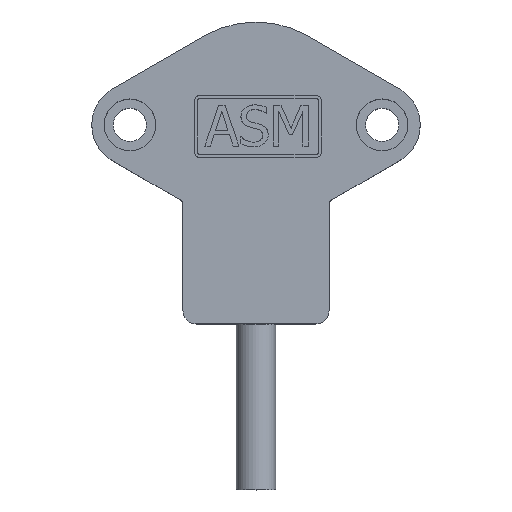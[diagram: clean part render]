
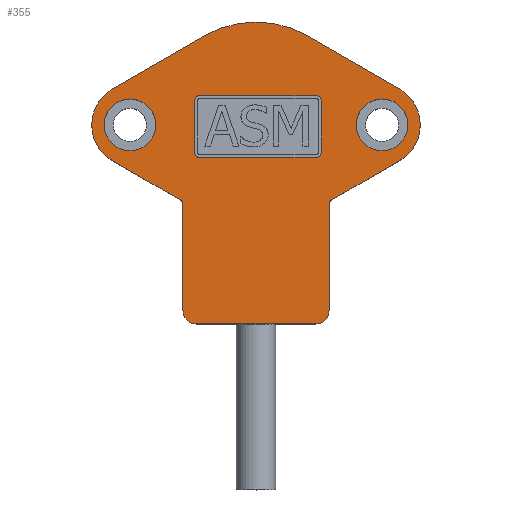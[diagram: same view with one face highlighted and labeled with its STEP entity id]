
A CAD part, top view. The second image highlights one B-rep face of the part: STEP entity #355.
In plain terms, the highlighted planar face has unit normal (0, 0, 1).
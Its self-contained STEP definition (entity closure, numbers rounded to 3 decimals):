
#97=CARTESIAN_POINT('',(21.624,5.413,10.0));
#98=VERTEX_POINT('',#97);
#105=CARTESIAN_POINT('',(21.625,-5.412,10.0));
#106=VERTEX_POINT('',#105);
#107=CARTESIAN_POINT('',(18.499,0.,10.0));
#108=DIRECTION('',(0.0,0.0,-1.));
#109=DIRECTION('',(0.5,-0.866,0.0));
#110=AXIS2_PLACEMENT_3D('',#107,#108,#109);
#111=CIRCLE('',#110,6.25);
#112=EDGE_CURVE('',#98,#106,#111,.T.);
#129=CARTESIAN_POINT('',(11.25,-11.403,10.0));
#130=VERTEX_POINT('',#129);
#131=CARTESIAN_POINT('',(21.625,-5.412,10.0));
#132=DIRECTION('',(-0.866,-0.5,0.0));
#133=VECTOR('',#132,11.98);
#134=LINE('',#131,#133);
#135=EDGE_CURVE('',#106,#130,#134,.T.);
#154=CARTESIAN_POINT('',(0.,-6.253,10.0));
#155=DIRECTION('',(0.0,0.0,1.0));
#156=DIRECTION('',(1.0,0.0,0.0));
#157=AXIS2_PLACEMENT_3D('',#154,#155,#156);
#158=PLANE('',#157);
#159=ORIENTED_EDGE('',*,*,#112,.F.);
#160=CARTESIAN_POINT('',(7.75,13.423,10.0));
#161=VERTEX_POINT('',#160);
#162=CARTESIAN_POINT('',(7.75,13.423,10.0));
#163=DIRECTION('',(0.866,-0.5,0.0));
#164=VECTOR('',#163,16.021);
#165=LINE('',#162,#164);
#166=EDGE_CURVE('',#161,#98,#165,.T.);
#167=ORIENTED_EDGE('',*,*,#166,.F.);
#168=CARTESIAN_POINT('',(-7.75,13.423,10.0));
#169=VERTEX_POINT('',#168);
#170=CARTESIAN_POINT('',(0.0,0.0,10.0));
#171=DIRECTION('',(0.0,0.0,-1.));
#172=DIRECTION('',(0.5,0.866,0.0));
#173=AXIS2_PLACEMENT_3D('',#170,#171,#172);
#174=CIRCLE('',#173,15.5);
#175=EDGE_CURVE('',#169,#161,#174,.T.);
#176=ORIENTED_EDGE('',*,*,#175,.F.);
#177=CARTESIAN_POINT('',(-21.625,5.413,10.0));
#178=VERTEX_POINT('',#177);
#179=CARTESIAN_POINT('',(-21.625,5.413,10.0));
#180=DIRECTION('',(0.866,0.5,0.0));
#181=VECTOR('',#180,16.021);
#182=LINE('',#179,#181);
#183=EDGE_CURVE('',#178,#169,#182,.T.);
#184=ORIENTED_EDGE('',*,*,#183,.F.);
#185=CARTESIAN_POINT('',(-21.625,-5.413,10.0));
#186=VERTEX_POINT('',#185);
#187=CARTESIAN_POINT('',(-18.5,0.,10.0));
#188=DIRECTION('',(0.0,0.0,-1.0));
#189=DIRECTION('',(-1.0,0.0,0.0));
#190=AXIS2_PLACEMENT_3D('',#187,#188,#189);
#191=CIRCLE('',#190,6.25);
#192=EDGE_CURVE('',#186,#178,#191,.T.);
#193=ORIENTED_EDGE('',*,*,#192,.F.);
#194=CARTESIAN_POINT('',(-11.25,-11.403,10.0));
#195=VERTEX_POINT('',#194);
#196=CARTESIAN_POINT('',(-11.25,-11.403,10.0));
#197=DIRECTION('',(-0.866,0.5,0.0));
#198=VECTOR('',#197,11.98);
#199=LINE('',#196,#198);
#200=EDGE_CURVE('',#195,#186,#199,.T.);
#201=ORIENTED_EDGE('',*,*,#200,.F.);
#202=CARTESIAN_POINT('',(-11.,-11.836,10.0));
#203=VERTEX_POINT('',#202);
#204=CARTESIAN_POINT('',(-11.5,-11.836,10.0));
#205=DIRECTION('',(0.0,0.0,1.0));
#206=DIRECTION('',(-1.0,0.0,0.0));
#207=AXIS2_PLACEMENT_3D('',#204,#205,#206);
#208=CIRCLE('',#207,0.5);
#209=EDGE_CURVE('',#203,#195,#208,.T.);
#210=ORIENTED_EDGE('',*,*,#209,.F.);
#211=CARTESIAN_POINT('',(-11.0,-28.,10.0));
#212=VERTEX_POINT('',#211);
#213=CARTESIAN_POINT('',(-11.0,-28.,10.0));
#214=DIRECTION('',(0.0,1.0,0.0));
#215=VECTOR('',#214,16.164);
#216=LINE('',#213,#215);
#217=EDGE_CURVE('',#212,#203,#216,.T.);
#218=ORIENTED_EDGE('',*,*,#217,.F.);
#219=CARTESIAN_POINT('',(-9.0,-30.,10.0));
#220=VERTEX_POINT('',#219);
#221=CARTESIAN_POINT('',(-9.0,-28.,10.0));
#222=DIRECTION('',(0.0,0.0,-1.0));
#223=DIRECTION('',(-0.707,-0.707,0.0));
#224=AXIS2_PLACEMENT_3D('',#221,#222,#223);
#225=CIRCLE('',#224,2.);
#226=EDGE_CURVE('',#220,#212,#225,.T.);
#227=ORIENTED_EDGE('',*,*,#226,.F.);
#228=CARTESIAN_POINT('',(9.0,-30.,10.0));
#229=VERTEX_POINT('',#228);
#230=CARTESIAN_POINT('',(9.0,-30.,10.0));
#231=DIRECTION('',(-1.0,0.0,0.0));
#232=VECTOR('',#231,18.0);
#233=LINE('',#230,#232);
#234=EDGE_CURVE('',#229,#220,#233,.T.);
#235=ORIENTED_EDGE('',*,*,#234,.F.);
#236=CARTESIAN_POINT('',(11.0,-28.,10.0));
#237=VERTEX_POINT('',#236);
#238=CARTESIAN_POINT('',(9.,-28.,10.0));
#239=DIRECTION('',(0.0,0.0,-1.0));
#240=DIRECTION('',(0.707,-0.707,0.0));
#241=AXIS2_PLACEMENT_3D('',#238,#239,#240);
#242=CIRCLE('',#241,2.0);
#243=EDGE_CURVE('',#237,#229,#242,.T.);
#244=ORIENTED_EDGE('',*,*,#243,.F.);
#245=CARTESIAN_POINT('',(11.,-11.836,10.0));
#246=VERTEX_POINT('',#245);
#247=CARTESIAN_POINT('',(11.,-11.836,10.0));
#248=DIRECTION('',(0.0,-1.0,0.0));
#249=VECTOR('',#248,16.164);
#250=LINE('',#247,#249);
#251=EDGE_CURVE('',#246,#237,#250,.T.);
#252=ORIENTED_EDGE('',*,*,#251,.F.);
#253=CARTESIAN_POINT('',(11.5,-11.836,10.0));
#254=DIRECTION('',(0.0,0.0,1.0));
#255=DIRECTION('',(0.5,-0.866,0.0));
#256=AXIS2_PLACEMENT_3D('',#253,#254,#255);
#257=CIRCLE('',#256,0.5);
#258=EDGE_CURVE('',#130,#246,#257,.T.);
#259=ORIENTED_EDGE('',*,*,#258,.F.);
#260=ORIENTED_EDGE('',*,*,#135,.F.);
#261=EDGE_LOOP('',(#159,#167,#176,#184,#193,#201,#210,#218,#227,#235,#244,#252,#259,#260));
#262=FACE_OUTER_BOUND('',#261,.T.);
#263=CARTESIAN_POINT('',(-8.487,4.419,10.0));
#264=VERTEX_POINT('',#263);
#265=CARTESIAN_POINT('',(9.051,4.419,10.0));
#266=VERTEX_POINT('',#265);
#267=CARTESIAN_POINT('',(-8.487,4.419,10.0));
#268=DIRECTION('',(1.0,0.0,0.0));
#269=VECTOR('',#268,17.538);
#270=LINE('',#267,#269);
#271=EDGE_CURVE('',#264,#266,#270,.T.);
#272=ORIENTED_EDGE('',*,*,#271,.T.);
#273=CARTESIAN_POINT('',(9.851,3.619,10.0));
#274=VERTEX_POINT('',#273);
#275=CARTESIAN_POINT('',(9.051,3.619,10.0));
#276=DIRECTION('',(0.0,0.0,-1.0));
#277=DIRECTION('',(-1.0,0.0,0.0));
#278=AXIS2_PLACEMENT_3D('',#275,#276,#277);
#279=CIRCLE('',#278,0.8);
#280=EDGE_CURVE('',#266,#274,#279,.T.);
#281=ORIENTED_EDGE('',*,*,#280,.T.);
#282=CARTESIAN_POINT('',(9.851,-4.097,10.0));
#283=VERTEX_POINT('',#282);
#284=CARTESIAN_POINT('',(9.851,3.619,10.0));
#285=DIRECTION('',(0.0,-1.0,0.0));
#286=VECTOR('',#285,7.716);
#287=LINE('',#284,#286);
#288=EDGE_CURVE('',#274,#283,#287,.T.);
#289=ORIENTED_EDGE('',*,*,#288,.T.);
#290=CARTESIAN_POINT('',(9.051,-4.897,10.0));
#291=VERTEX_POINT('',#290);
#292=CARTESIAN_POINT('',(9.051,-4.097,10.0));
#293=DIRECTION('',(0.0,0.0,-1.0));
#294=DIRECTION('',(0.0,1.0,0.0));
#295=AXIS2_PLACEMENT_3D('',#292,#293,#294);
#296=CIRCLE('',#295,0.8);
#297=EDGE_CURVE('',#283,#291,#296,.T.);
#298=ORIENTED_EDGE('',*,*,#297,.T.);
#299=CARTESIAN_POINT('',(-8.487,-4.897,10.0));
#300=VERTEX_POINT('',#299);
#301=CARTESIAN_POINT('',(9.051,-4.897,10.0));
#302=DIRECTION('',(-1.0,0.0,0.0));
#303=VECTOR('',#302,17.538);
#304=LINE('',#301,#303);
#305=EDGE_CURVE('',#291,#300,#304,.T.);
#306=ORIENTED_EDGE('',*,*,#305,.T.);
#307=CARTESIAN_POINT('',(-9.287,-4.097,10.0));
#308=VERTEX_POINT('',#307);
#309=CARTESIAN_POINT('',(-8.487,-4.097,10.0));
#310=DIRECTION('',(0.0,0.0,-1.0));
#311=DIRECTION('',(1.0,0.0,0.0));
#312=AXIS2_PLACEMENT_3D('',#309,#310,#311);
#313=CIRCLE('',#312,0.8);
#314=EDGE_CURVE('',#300,#308,#313,.T.);
#315=ORIENTED_EDGE('',*,*,#314,.T.);
#316=CARTESIAN_POINT('',(-9.287,3.619,10.0));
#317=VERTEX_POINT('',#316);
#318=CARTESIAN_POINT('',(-9.287,-4.097,10.0));
#319=DIRECTION('',(0.0,1.0,0.0));
#320=VECTOR('',#319,7.716);
#321=LINE('',#318,#320);
#322=EDGE_CURVE('',#308,#317,#321,.T.);
#323=ORIENTED_EDGE('',*,*,#322,.T.);
#324=CARTESIAN_POINT('',(-8.487,3.619,10.0));
#325=DIRECTION('',(0.0,0.0,-1.0));
#326=DIRECTION('',(0.0,-1.0,0.0));
#327=AXIS2_PLACEMENT_3D('',#324,#325,#326);
#328=CIRCLE('',#327,0.8);
#329=EDGE_CURVE('',#317,#264,#328,.T.);
#330=ORIENTED_EDGE('',*,*,#329,.T.);
#331=EDGE_LOOP('',(#272,#281,#289,#298,#306,#315,#323,#330));
#332=FACE_BOUND('',#331,.T.);
#333=CARTESIAN_POINT('',(22.9,0.0,10.0));
#334=VERTEX_POINT('',#333);
#335=CARTESIAN_POINT('',(19.0,0.0,10.0));
#336=DIRECTION('',(0.0,0.0,-1.0));
#337=DIRECTION('',(1.0,0.0,0.0));
#338=AXIS2_PLACEMENT_3D('',#335,#336,#337);
#339=CIRCLE('',#338,3.9);
#340=EDGE_CURVE('',#334,#334,#339,.T.);
#341=ORIENTED_EDGE('',*,*,#340,.T.);
#342=EDGE_LOOP('',(#341));
#343=FACE_BOUND('',#342,.T.);
#344=CARTESIAN_POINT('',(-15.1,0.0,10.0));
#345=VERTEX_POINT('',#344);
#346=CARTESIAN_POINT('',(-19.0,0.0,10.0));
#347=DIRECTION('',(0.0,0.0,-1.0));
#348=DIRECTION('',(1.0,0.0,0.0));
#349=AXIS2_PLACEMENT_3D('',#346,#347,#348);
#350=CIRCLE('',#349,3.9);
#351=EDGE_CURVE('',#345,#345,#350,.T.);
#352=ORIENTED_EDGE('',*,*,#351,.T.);
#353=EDGE_LOOP('',(#352));
#354=FACE_BOUND('',#353,.T.);
#355=ADVANCED_FACE('',(#262,#332,#343,#354),#158,.T.);
